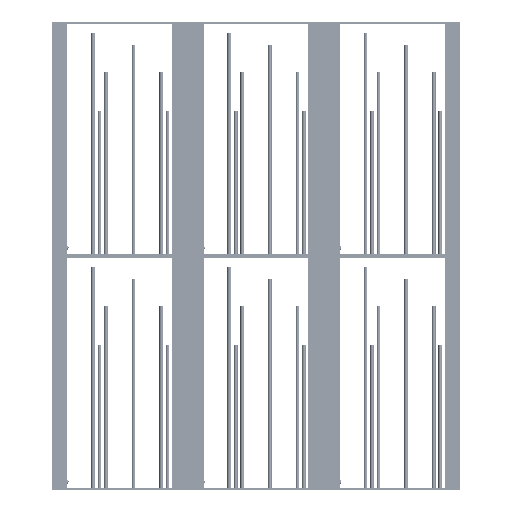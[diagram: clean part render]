
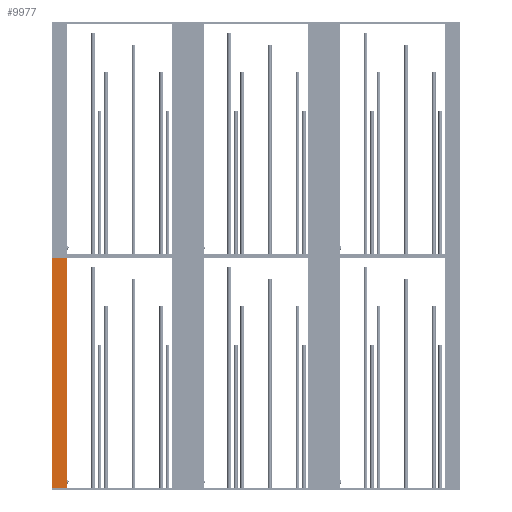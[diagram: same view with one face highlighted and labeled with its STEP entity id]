
A CAD part, left-side view. The second image highlights one B-rep face of the part: STEP entity #9977.
In plain terms, the highlighted planar face has unit normal (-1, 0, 0).
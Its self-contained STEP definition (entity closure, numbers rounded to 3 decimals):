
#659 = VERTEX_POINT('',#660);
#660 = CARTESIAN_POINT('',(0.,77.226,1.2));
#674 = PLANE('',#675);
#675 = AXIS2_PLACEMENT_3D('',#676,#677,#678);
#676 = CARTESIAN_POINT('',(0.,0.125,0.));
#677 = DIRECTION('',(1.,0.,0.));
#678 = DIRECTION('',(0.,0.,1.));
#1493 = PLANE('',#1494);
#1494 = AXIS2_PLACEMENT_3D('',#1495,#1496,#1497);
#1495 = CARTESIAN_POINT('',(0.,77.226,0.));
#1496 = DIRECTION('',(0.,1.,0.));
#1497 = DIRECTION('',(0.,0.,1.));
#2299 = VERTEX_POINT('',#2300);
#2300 = CARTESIAN_POINT('',(0.,87.226,1.2));
#2326 = EDGE_CURVE('',#659,#2299,#2327,.T.);
#2327 = SURFACE_CURVE('',#2328,(#2332,#2339),.PCURVE_S1.);
#2328 = LINE('',#2329,#2330);
#2329 = CARTESIAN_POINT('',(0.,0.125,1.2));
#2330 = VECTOR('',#2331,1.);
#2331 = DIRECTION('',(0.,1.,0.));
#2332 = PCURVE('',#674,#2333);
#2333 = DEFINITIONAL_REPRESENTATION('',(#2334),#2338);
#2334 = LINE('',#2335,#2336);
#2335 = CARTESIAN_POINT('',(1.2,0.));
#2336 = VECTOR('',#2337,1.);
#2337 = DIRECTION('',(0.,-1.));
#2338 = ( GEOMETRIC_REPRESENTATION_CONTEXT(2) 
PARAMETRIC_REPRESENTATION_CONTEXT() REPRESENTATION_CONTEXT('2D SPACE',''
  ) );
#2339 = PCURVE('',#2340,#2345);
#2340 = PLANE('',#2341);
#2341 = AXIS2_PLACEMENT_3D('',#2342,#2343,#2344);
#2342 = CARTESIAN_POINT('',(0.,77.226,0.));
#2343 = DIRECTION('',(1.,0.,0.));
#2344 = DIRECTION('',(0.,0.,1.));
#2345 = DEFINITIONAL_REPRESENTATION('',(#2346),#2350);
#2346 = LINE('',#2347,#2348);
#2347 = CARTESIAN_POINT('',(1.2,77.101));
#2348 = VECTOR('',#2349,1.);
#2349 = DIRECTION('',(0.,-1.));
#2350 = ( GEOMETRIC_REPRESENTATION_CONTEXT(2) 
PARAMETRIC_REPRESENTATION_CONTEXT() REPRESENTATION_CONTEXT('2D SPACE',''
  ) );
#3631 = VERTEX_POINT('',#3632);
#3632 = CARTESIAN_POINT('',(0.,77.226,148.8));
#3669 = PLANE('',#3670);
#3670 = AXIS2_PLACEMENT_3D('',#3671,#3672,#3673);
#3671 = CARTESIAN_POINT('',(0.,0.125,148.8));
#3672 = DIRECTION('',(1.,0.,0.));
#3673 = DIRECTION('',(0.,0.,1.));
#3946 = EDGE_CURVE('',#659,#3631,#3947,.T.);
#3947 = SURFACE_CURVE('',#3948,(#3952,#3959),.PCURVE_S1.);
#3948 = LINE('',#3949,#3950);
#3949 = CARTESIAN_POINT('',(0.,77.226,0.));
#3950 = VECTOR('',#3951,1.);
#3951 = DIRECTION('',(0.,0.,1.));
#3952 = PCURVE('',#1493,#3953);
#3953 = DEFINITIONAL_REPRESENTATION('',(#3954),#3958);
#3954 = LINE('',#3955,#3956);
#3955 = CARTESIAN_POINT('',(0.,0.));
#3956 = VECTOR('',#3957,1.);
#3957 = DIRECTION('',(1.,0.));
#3958 = ( GEOMETRIC_REPRESENTATION_CONTEXT(2) 
PARAMETRIC_REPRESENTATION_CONTEXT() REPRESENTATION_CONTEXT('2D SPACE',''
  ) );
#3959 = PCURVE('',#2340,#3960);
#3960 = DEFINITIONAL_REPRESENTATION('',(#3961),#3965);
#3961 = LINE('',#3962,#3963);
#3962 = CARTESIAN_POINT('',(0.,0.));
#3963 = VECTOR('',#3964,1.);
#3964 = DIRECTION('',(1.,0.));
#3965 = ( GEOMETRIC_REPRESENTATION_CONTEXT(2) 
PARAMETRIC_REPRESENTATION_CONTEXT() REPRESENTATION_CONTEXT('2D SPACE',''
  ) );
#4155 = PLANE('',#4156);
#4156 = AXIS2_PLACEMENT_3D('',#4157,#4158,#4159);
#4157 = CARTESIAN_POINT('',(0.,87.226,0.));
#4158 = DIRECTION('',(0.,1.,0.));
#4159 = DIRECTION('',(0.,0.,1.));
#9977 = ADVANCED_FACE('',(#9978),#2340,.F.);
#9978 = FACE_BOUND('',#9979,.F.);
#9979 = EDGE_LOOP('',(#9980,#9981,#9982,#10005));
#9980 = ORIENTED_EDGE('',*,*,#3946,.F.);
#9981 = ORIENTED_EDGE('',*,*,#2326,.T.);
#9982 = ORIENTED_EDGE('',*,*,#9983,.T.);
#9983 = EDGE_CURVE('',#2299,#9984,#9986,.T.);
#9984 = VERTEX_POINT('',#9985);
#9985 = CARTESIAN_POINT('',(0.,87.226,148.8));
#9986 = SURFACE_CURVE('',#9987,(#9991,#9998),.PCURVE_S1.);
#9987 = LINE('',#9988,#9989);
#9988 = CARTESIAN_POINT('',(0.,87.226,0.));
#9989 = VECTOR('',#9990,1.);
#9990 = DIRECTION('',(0.,0.,1.));
#9991 = PCURVE('',#2340,#9992);
#9992 = DEFINITIONAL_REPRESENTATION('',(#9993),#9997);
#9993 = LINE('',#9994,#9995);
#9994 = CARTESIAN_POINT('',(0.,-10.));
#9995 = VECTOR('',#9996,1.);
#9996 = DIRECTION('',(1.,0.));
#9997 = ( GEOMETRIC_REPRESENTATION_CONTEXT(2) 
PARAMETRIC_REPRESENTATION_CONTEXT() REPRESENTATION_CONTEXT('2D SPACE',''
  ) );
#9998 = PCURVE('',#4155,#9999);
#9999 = DEFINITIONAL_REPRESENTATION('',(#10000),#10004);
#10000 = LINE('',#10001,#10002);
#10001 = CARTESIAN_POINT('',(0.,0.));
#10002 = VECTOR('',#10003,1.);
#10003 = DIRECTION('',(1.,0.));
#10004 = ( GEOMETRIC_REPRESENTATION_CONTEXT(2) 
PARAMETRIC_REPRESENTATION_CONTEXT() REPRESENTATION_CONTEXT('2D SPACE',''
  ) );
#10005 = ORIENTED_EDGE('',*,*,#10006,.F.);
#10006 = EDGE_CURVE('',#3631,#9984,#10007,.T.);
#10007 = SURFACE_CURVE('',#10008,(#10012,#10019),.PCURVE_S1.);
#10008 = LINE('',#10009,#10010);
#10009 = CARTESIAN_POINT('',(0.,0.125,148.8));
#10010 = VECTOR('',#10011,1.);
#10011 = DIRECTION('',(0.,1.,0.));
#10012 = PCURVE('',#2340,#10013);
#10013 = DEFINITIONAL_REPRESENTATION('',(#10014),#10018);
#10014 = LINE('',#10015,#10016);
#10015 = CARTESIAN_POINT('',(148.8,77.101));
#10016 = VECTOR('',#10017,1.);
#10017 = DIRECTION('',(0.,-1.));
#10018 = ( GEOMETRIC_REPRESENTATION_CONTEXT(2) 
PARAMETRIC_REPRESENTATION_CONTEXT() REPRESENTATION_CONTEXT('2D SPACE',''
  ) );
#10019 = PCURVE('',#3669,#10020);
#10020 = DEFINITIONAL_REPRESENTATION('',(#10021),#10025);
#10021 = LINE('',#10022,#10023);
#10022 = CARTESIAN_POINT('',(0.,0.));
#10023 = VECTOR('',#10024,1.);
#10024 = DIRECTION('',(0.,-1.));
#10025 = ( GEOMETRIC_REPRESENTATION_CONTEXT(2) 
PARAMETRIC_REPRESENTATION_CONTEXT() REPRESENTATION_CONTEXT('2D SPACE',''
  ) );
